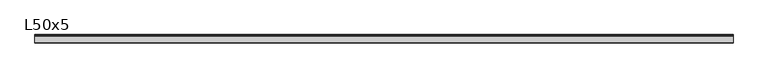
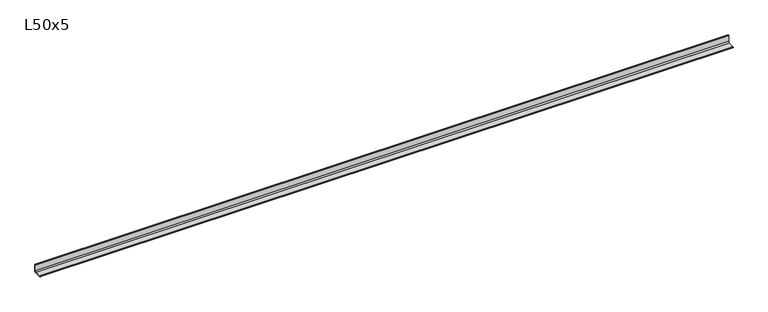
"""IFC4 building model written with IfcOpenShell, lengths in millimetres: beam geometry, Cornière à ailes égales : L50x5."""

from ifc_helpers import new_model, si_unit, point, frame, frame_2d, origin, place, context, project, spatial, polyline, circle_curve, trimmed, segment, composite_curve, outline, extrude, source, transform, mapped, element, save


def l50x5_995c440c(model_context):
    return source(origin(), model_context, "Body", "SweptSolid", [
        extrude(outline(composite_curve([segment(polyline([(14.0, -14.0), (-36.0, -14.0), (-36.0, -12.5)]), True, "CONTINUOUS"), segment(trimmed(circle_curve(frame_2d((-32.5, -12.5)), 3.5), [point((-36.0, -12.5))], [point((-32.5, -9.0))], False, "CARTESIAN"), True, "CONTINUOUS"), segment(polyline([(-32.5, -9.0), (2.0, -9.0)]), True, "CONTINUOUS"), segment(trimmed(circle_curve(frame_2d((2.0, -2.0)), 7.0), [point((2.0, -9.0))], [point((9.0, -2.0))], True, "CARTESIAN"), True, "CONTINUOUS"), segment(polyline([(9.0, -2.0), (9.0, 32.5)]), True, "CONTINUOUS"), segment(trimmed(circle_curve(frame_2d((12.5, 32.5)), 3.5), [point((9.0, 32.5))], [point((12.5, 36.0))], False, "CARTESIAN"), True, "CONTINUOUS"), segment(polyline([(12.5, 36.0), (14.0, 36.0), (14.0, -14.0)]), True, "CONTINUOUS")], self_intersect=False)), frame((-2064.95, 0.0, 0.0), z_axis=(1.0, 0.0, 0.0), x_axis=(0.0, 1.0, 0.0)), (0.0, 0.0, 1.0), 4139.4),
    ])


if __name__ == "__main__":
    model = new_model("IFC4")
    model_context = context("Model", 3, world=origin())
    ifc_project = project(units=[si_unit("LENGTHUNIT", "METRE", prefix="MILLI")], contexts=[model_context])
    site = spatial("IfcSite", under=ifc_project)
    building = spatial("IfcBuilding", under=site)
    placement = place(None, origin())
    l50x5_shape = l50x5_995c440c(model_context)
    element("IfcBeam", 1, ObjectType="Cornière à ailes égales : L50x5", at=placement, inside=building, context=model_context, shape_type="MappedRepresentation", body=[
        mapped(l50x5_shape, transform((0.0, 0.0, 0.0), x_axis=(1.0, 0.0, 0.0), y_axis=(0.0, 1.0, 0.0), z_axis=(0.0, 0.0, 1.0))),
    ])
    save(model, "model.ifc")
